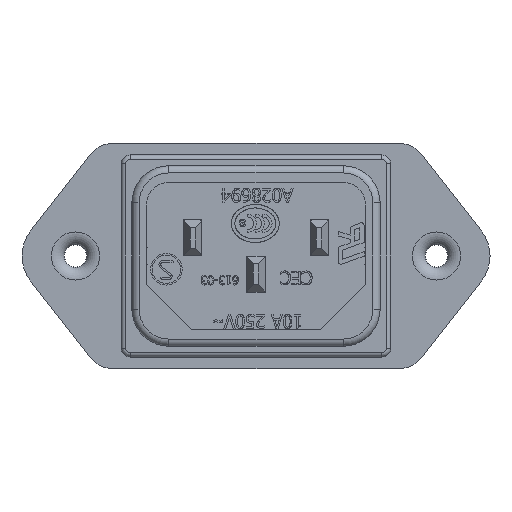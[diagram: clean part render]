
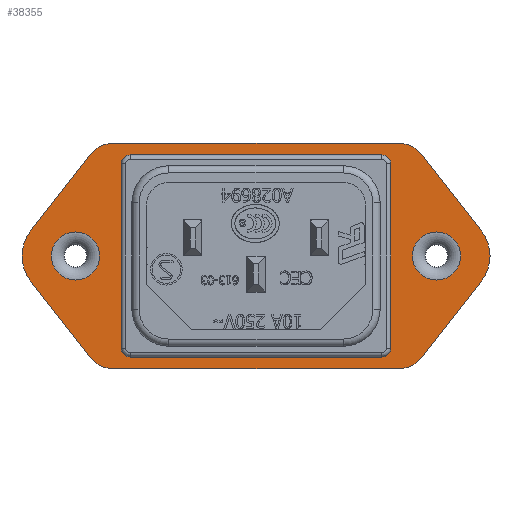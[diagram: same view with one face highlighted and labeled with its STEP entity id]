
A CAD part, front view. The second image highlights one B-rep face of the part: STEP entity #38355.
In plain terms, the highlighted planar face has unit normal (0, -1, 0).
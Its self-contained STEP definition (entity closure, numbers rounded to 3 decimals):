
#174=FACE_BOUND('',#5547,.T.);
#175=FACE_BOUND('',#5548,.T.);
#176=FACE_BOUND('',#5549,.T.);
#1556=CIRCLE('',#39235,1.);
#1557=CIRCLE('',#39238,1.);
#1649=CIRCLE('',#40181,1.);
#1650=CIRCLE('',#40184,1.);
#1669=CIRCLE('',#40220,2.664);
#1670=CIRCLE('',#40222,4.5);
#1671=CIRCLE('',#40223,3.281);
#1672=CIRCLE('',#40224,3.281);
#1673=CIRCLE('',#40225,4.5);
#1674=CIRCLE('',#40226,3.281);
#1675=CIRCLE('',#40227,3.281);
#1676=CIRCLE('',#40228,2.664);
#3543=FACE_OUTER_BOUND('',#5546,.T.);
#5546=EDGE_LOOP('',(#32934,#32935,#32936,#32937,#32938,#32939,#32940,#32941,
#32942,#32943,#32944,#32945));
#5547=EDGE_LOOP('',(#32946,#32947,#32948,#32949,#32950,#32951,#32952,#32953));
#5548=EDGE_LOOP('',(#32954));
#5549=EDGE_LOOP('',(#32955));
#7246=LINE('',#52796,#11454);
#7250=LINE('',#52805,#11458);
#9743=LINE('',#63711,#13951);
#9746=LINE('',#63718,#13954);
#9788=LINE('',#63849,#13996);
#9789=LINE('',#63853,#13997);
#9790=LINE('',#63857,#13998);
#9791=LINE('',#63861,#13999);
#9792=LINE('',#63865,#14000);
#9793=LINE('',#63868,#14001);
#11454=VECTOR('',#43550,10.);
#11458=VECTOR('',#43560,10.);
#13951=VECTOR('',#47945,10.);
#13954=VECTOR('',#47954,10.);
#13996=VECTOR('',#48070,10.);
#13997=VECTOR('',#48073,10.);
#13998=VECTOR('',#48076,10.);
#13999=VECTOR('',#48079,10.);
#14000=VECTOR('',#48082,10.);
#14001=VECTOR('',#48085,10.);
#15286=VERTEX_POINT('',#52793);
#15287=VERTEX_POINT('',#52795);
#15288=VERTEX_POINT('',#52799);
#15289=VERTEX_POINT('',#52803);
#15290=VERTEX_POINT('',#52807);
#17394=VERTEX_POINT('',#63706);
#17395=VERTEX_POINT('',#63710);
#17396=VERTEX_POINT('',#63714);
#17445=VERTEX_POINT('',#63842);
#17446=VERTEX_POINT('',#63845);
#17447=VERTEX_POINT('',#63846);
#17448=VERTEX_POINT('',#63848);
#17449=VERTEX_POINT('',#63850);
#17450=VERTEX_POINT('',#63852);
#17451=VERTEX_POINT('',#63854);
#17452=VERTEX_POINT('',#63856);
#17453=VERTEX_POINT('',#63858);
#17454=VERTEX_POINT('',#63860);
#17455=VERTEX_POINT('',#63862);
#17456=VERTEX_POINT('',#63864);
#17457=VERTEX_POINT('',#63866);
#17458=VERTEX_POINT('',#63869);
#19386=EDGE_CURVE('',#15287,#15286,#7246,.T.);
#19389=EDGE_CURVE('',#15286,#15288,#1556,.T.);
#19391=EDGE_CURVE('',#15288,#15289,#7250,.T.);
#19393=EDGE_CURVE('',#15289,#15290,#1557,.T.);
#22575=EDGE_CURVE('',#17394,#15287,#1649,.T.);
#22577=EDGE_CURVE('',#17395,#17394,#9743,.T.);
#22579=EDGE_CURVE('',#17396,#17395,#1650,.T.);
#22581=EDGE_CURVE('',#15290,#17396,#9746,.T.);
#22641=EDGE_CURVE('',#17445,#17445,#1669,.T.);
#22642=EDGE_CURVE('',#17446,#17447,#1670,.T.);
#22643=EDGE_CURVE('',#17448,#17447,#9788,.T.);
#22644=EDGE_CURVE('',#17449,#17448,#1671,.T.);
#22645=EDGE_CURVE('',#17450,#17449,#9789,.T.);
#22646=EDGE_CURVE('',#17450,#17451,#1672,.T.);
#22647=EDGE_CURVE('',#17451,#17452,#9790,.T.);
#22648=EDGE_CURVE('',#17452,#17453,#1673,.T.);
#22649=EDGE_CURVE('',#17454,#17453,#9791,.T.);
#22650=EDGE_CURVE('',#17455,#17454,#1674,.T.);
#22651=EDGE_CURVE('',#17456,#17455,#9792,.T.);
#22652=EDGE_CURVE('',#17456,#17457,#1675,.T.);
#22653=EDGE_CURVE('',#17457,#17446,#9793,.T.);
#22654=EDGE_CURVE('',#17458,#17458,#1676,.T.);
#32934=ORIENTED_EDGE('',*,*,#22642,.T.);
#32935=ORIENTED_EDGE('',*,*,#22643,.F.);
#32936=ORIENTED_EDGE('',*,*,#22644,.F.);
#32937=ORIENTED_EDGE('',*,*,#22645,.F.);
#32938=ORIENTED_EDGE('',*,*,#22646,.T.);
#32939=ORIENTED_EDGE('',*,*,#22647,.T.);
#32940=ORIENTED_EDGE('',*,*,#22648,.T.);
#32941=ORIENTED_EDGE('',*,*,#22649,.F.);
#32942=ORIENTED_EDGE('',*,*,#22650,.F.);
#32943=ORIENTED_EDGE('',*,*,#22651,.F.);
#32944=ORIENTED_EDGE('',*,*,#22652,.T.);
#32945=ORIENTED_EDGE('',*,*,#22653,.T.);
#32946=ORIENTED_EDGE('',*,*,#19386,.T.);
#32947=ORIENTED_EDGE('',*,*,#19389,.T.);
#32948=ORIENTED_EDGE('',*,*,#19391,.T.);
#32949=ORIENTED_EDGE('',*,*,#19393,.T.);
#32950=ORIENTED_EDGE('',*,*,#22581,.T.);
#32951=ORIENTED_EDGE('',*,*,#22579,.T.);
#32952=ORIENTED_EDGE('',*,*,#22577,.T.);
#32953=ORIENTED_EDGE('',*,*,#22575,.T.);
#32954=ORIENTED_EDGE('',*,*,#22654,.F.);
#32955=ORIENTED_EDGE('',*,*,#22641,.F.);
#34645=PLANE('',#40221);
#38355=ADVANCED_FACE('',(#3543,#174,#175,#176),#34645,.T.);
#39235=AXIS2_PLACEMENT_3D('',#52801,#43555,#43556);
#39238=AXIS2_PLACEMENT_3D('',#52809,#43564,#43565);
#40181=AXIS2_PLACEMENT_3D('',#63707,#47940,#47941);
#40184=AXIS2_PLACEMENT_3D('',#63715,#47949,#47950);
#40220=AXIS2_PLACEMENT_3D('',#63843,#48064,#48065);
#40221=AXIS2_PLACEMENT_3D('',#63844,#48066,#48067);
#40222=AXIS2_PLACEMENT_3D('',#63847,#48068,#48069);
#40223=AXIS2_PLACEMENT_3D('',#63851,#48071,#48072);
#40224=AXIS2_PLACEMENT_3D('',#63855,#48074,#48075);
#40225=AXIS2_PLACEMENT_3D('',#63859,#48077,#48078);
#40226=AXIS2_PLACEMENT_3D('',#63863,#48080,#48081);
#40227=AXIS2_PLACEMENT_3D('',#63867,#48083,#48084);
#40228=AXIS2_PLACEMENT_3D('',#63870,#48086,#48087);
#43550=DIRECTION('',(1.,0.,0.));
#43555=DIRECTION('center_axis',(0.,1.,0.));
#43556=DIRECTION('ref_axis',(-1.,0.,0.));
#43560=DIRECTION('',(0.,0.,-1.));
#43564=DIRECTION('center_axis',(0.,1.,0.));
#43565=DIRECTION('ref_axis',(0.,0.,
1.));
#47940=DIRECTION('center_axis',(0.,1.,0.));
#47941=DIRECTION('ref_axis',(0.,0.,
-1.));
#47945=DIRECTION('',(0.,0.,1.));
#47949=DIRECTION('center_axis',(0.,1.,0.));
#47950=DIRECTION('ref_axis',(1.,0.,0.));
#47954=DIRECTION('',(-1.,0.,0.));
#48064=DIRECTION('center_axis',(0.,-1.,0.));
#48065=DIRECTION('ref_axis',(-1.,0.,0.));
#48066=DIRECTION('center_axis',(0.,-1.,0.));
#48067=DIRECTION('ref_axis',(1.,0.,0.));
#48068=DIRECTION('center_axis',(0.,-1.,0.));
#48069=DIRECTION('ref_axis',(0.788,0.,-0.616));
#48070=DIRECTION('',(0.616,0.,-0.788));
#48071=DIRECTION('center_axis',(0.,1.,0.));
#48072=DIRECTION('ref_axis',(0.,0.,
1.));
#48073=DIRECTION('',(1.,0.,0.));
#48074=DIRECTION('center_axis',(0.,-1.,0.));
#48075=DIRECTION('ref_axis',(0.,0.,
1.));
#48076=DIRECTION('',(-0.616,0.,-0.788));
#48077=DIRECTION('center_axis',(0.,-1.,0.));
#48078=DIRECTION('ref_axis',(-0.788,0.,0.616));
#48079=DIRECTION('',(-0.616,0.,0.788));
#48080=DIRECTION('center_axis',(0.,1.,0.));
#48081=DIRECTION('ref_axis',(0.,0.,
-1.));
#48082=DIRECTION('',(-1.,0.,0.));
#48083=DIRECTION('center_axis',(0.,-1.,0.));
#48084=DIRECTION('ref_axis',(0.,0.,
-1.));
#48085=DIRECTION('',(0.616,0.,0.788));
#48086=DIRECTION('center_axis',(0.,-1.,0.));
#48087=DIRECTION('ref_axis',(1.,0.,0.));
#52793=CARTESIAN_POINT('',(3.847,-16.668,11.368));
#52795=CARTESIAN_POINT('',(-24.053,-16.668,11.368));
#52796=CARTESIAN_POINT('',(-23.716,-16.668,11.368));
#52799=CARTESIAN_POINT('',(4.847,-16.668,10.368));
#52801=CARTESIAN_POINT('Origin',(3.847,-16.668,10.368));
#52803=CARTESIAN_POINT('',(4.847,-16.668,-10.032));
#52805=CARTESIAN_POINT('',(4.847,-16.668,8.919));
#52807=CARTESIAN_POINT('',(3.847,-16.668,-11.032));
#52809=CARTESIAN_POINT('Origin',(3.847,-16.668,-10.032));
#63706=CARTESIAN_POINT('',(-25.053,-16.668,10.368));
#63707=CARTESIAN_POINT('Origin',(-24.053,-16.668,10.368));
#63710=CARTESIAN_POINT('',(-25.053,-16.668,-10.032));
#63711=CARTESIAN_POINT('',(-25.053,-16.668,-1.281));
#63714=CARTESIAN_POINT('',(-24.053,-16.668,-11.032));
#63715=CARTESIAN_POINT('Origin',(-24.053,-16.668,-10.032));
#63718=CARTESIAN_POINT('',(-9.766,-16.668,-11.032));
#63842=CARTESIAN_POINT('',(-27.439,-16.668,0.168));
#63843=CARTESIAN_POINT('Origin',(-30.103,-16.668,0.168));
#63844=CARTESIAN_POINT('Origin',(-23.378,-16.668,7.47));
#63845=CARTESIAN_POINT('',(14.868,-16.668,-2.602));
#63846=CARTESIAN_POINT('',(14.868,-16.668,2.939));
#63847=CARTESIAN_POINT('Origin',(11.322,-16.668,0.168));
#63848=CARTESIAN_POINT('',(8.251,-16.668,11.407));
#63849=CARTESIAN_POINT('',(8.251,-16.668,11.407));
#63850=CARTESIAN_POINT('',(5.666,-16.668,12.668));
#63851=CARTESIAN_POINT('Origin',(5.666,-16.668,9.387));
#63852=CARTESIAN_POINT('',(-25.872,-16.668,12.668));
#63853=CARTESIAN_POINT('',(-10.103,-16.668,12.668));
#63854=CARTESIAN_POINT('',(-28.458,-16.668,11.407));
#63855=CARTESIAN_POINT('Origin',(-25.872,-16.668,9.387));
#63856=CARTESIAN_POINT('',(-35.074,-16.668,2.939));
#63857=CARTESIAN_POINT('',(-28.458,-16.668,11.407));
#63858=CARTESIAN_POINT('',(-35.074,-16.668,-2.602));
#63859=CARTESIAN_POINT('Origin',(-31.528,-16.668,0.168));
#63860=CARTESIAN_POINT('',(-28.458,-16.668,-11.071));
#63861=CARTESIAN_POINT('',(-28.458,-16.668,-11.071));
#63862=CARTESIAN_POINT('',(-25.872,-16.668,-12.332));
#63863=CARTESIAN_POINT('Origin',(-25.872,-16.668,-9.051));
#63864=CARTESIAN_POINT('',(5.666,-16.668,-12.332));
#63865=CARTESIAN_POINT('',(-10.103,-16.668,-12.332));
#63866=CARTESIAN_POINT('',(8.251,-16.668,-11.071));
#63867=CARTESIAN_POINT('Origin',(5.666,-16.668,-9.051));
#63868=CARTESIAN_POINT('',(8.251,-16.668,-11.071));
#63869=CARTESIAN_POINT('',(7.233,-16.668,0.168));
#63870=CARTESIAN_POINT('Origin',(9.897,-16.668,0.168));
